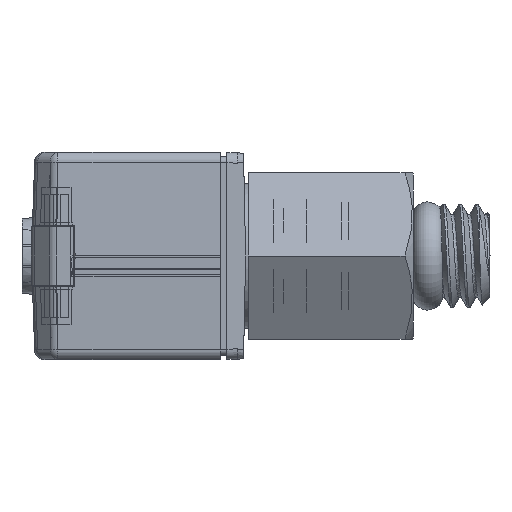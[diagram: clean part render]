
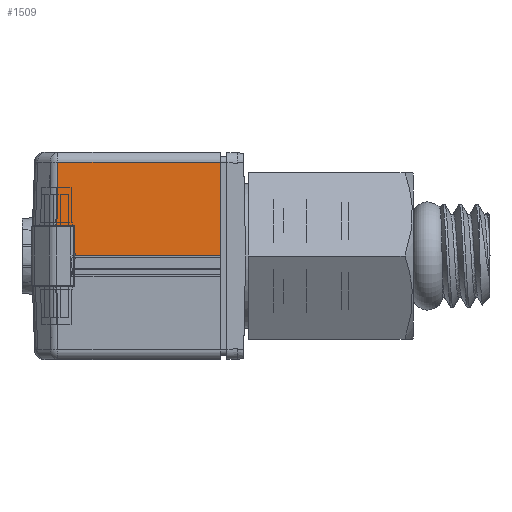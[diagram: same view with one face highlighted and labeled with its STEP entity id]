
A CAD part, left-side view. The second image highlights one B-rep face of the part: STEP entity #1509.
In plain terms, the highlighted planar face has unit normal (-0.999, 0, 0.035).
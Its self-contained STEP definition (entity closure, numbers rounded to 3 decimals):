
#1509=ADVANCED_FACE('',(#3248),#3249,.T.);
#3248=FACE_OUTER_BOUND('',#5738,.T.);
#3249=PLANE('',#5739);
#5738=EDGE_LOOP('',(#10962,#10963,#10964,#10965,#10966,#10967));
#5739=AXIS2_PLACEMENT_3D('',#10968,#10969,#10970);
#10962=ORIENTED_EDGE('',*,*,#14741,.T.);
#10963=ORIENTED_EDGE('',*,*,#13217,.T.);
#10964=ORIENTED_EDGE('',*,*,#13221,.F.);
#10965=ORIENTED_EDGE('',*,*,#13233,.T.);
#10966=ORIENTED_EDGE('',*,*,#14739,.F.);
#10967=ORIENTED_EDGE('',*,*,#14742,.T.);
#10968=CARTESIAN_POINT('',(-10.0,10.446,0.0));
#10969=DIRECTION('',(-0.999,0.0,0.035));
#10970=DIRECTION('',(0.0,1.0,0.0));
#13217=EDGE_CURVE('',#15544,#15546,#15548,.T.);
#13221=EDGE_CURVE('',#15553,#15546,#15555,.T.);
#13233=EDGE_CURVE('',#15553,#15574,#15576,.T.);
#14739=EDGE_CURVE('',#17780,#15574,#17866,.T.);
#14741=EDGE_CURVE('',#17868,#15544,#17869,.T.);
#14742=EDGE_CURVE('',#17780,#17868,#17870,.T.);
#15544=VERTEX_POINT('',#19165);
#15546=VERTEX_POINT('',#19167);
#15548=LINE('',#19169,#19170);
#15553=VERTEX_POINT('',#19176);
#15555=LINE('',#19178,#19179);
#15574=VERTEX_POINT('',#19203);
#15576=LINE('',#19206,#19207);
#17780=VERTEX_POINT('',#23791);
#17866=LINE('',#23911,#23912);
#17868=VERTEX_POINT('',#23914);
#17869=LINE('',#23915,#23916);
#17870=LINE('',#23917,#23918);
#19165=CARTESIAN_POINT('',(-9.842,0.0,4.517));
#19167=CARTESIAN_POINT('',(-9.842,7.828,4.517));
#19169=CARTESIAN_POINT('',(-9.842,0.0,4.517));
#19170=VECTOR('',#26346,1.0);
#19176=CARTESIAN_POINT('',(-9.949,7.872,1.45));
#19178=CARTESIAN_POINT('',(-9.949,7.872,1.45));
#19179=VECTOR('',#26351,1.0);
#19203=CARTESIAN_POINT('',(-9.949,7.039,1.45));
#19206=CARTESIAN_POINT('',(-9.949,7.872,1.45));
#19207=VECTOR('',#26367,1.0);
#23791=CARTESIAN_POINT('',(-10.0,6.999,0.));
#23911=CARTESIAN_POINT('',(-10.0,6.999,0.));
#23912=VECTOR('',#27823,1.0);
#23914=CARTESIAN_POINT('',(-10.0,0.0,0.));
#23915=CARTESIAN_POINT('',(-10.0,0.0,0.));
#23916=VECTOR('',#27824,1.0);
#23917=CARTESIAN_POINT('',(-10.0,6.999,0.));
#23918=VECTOR('',#27825,1.0);
#26346=DIRECTION('',(0.0,1.0,0.));
#26351=DIRECTION('',(0.035,-0.014,0.999));
#26367=DIRECTION('',(0.,-1.0,0.));
#27823=DIRECTION('',(0.035,0.027,0.999));
#27824=DIRECTION('',(0.035,0.0,0.999));
#27825=DIRECTION('',(0.0,-1.0,0.));
